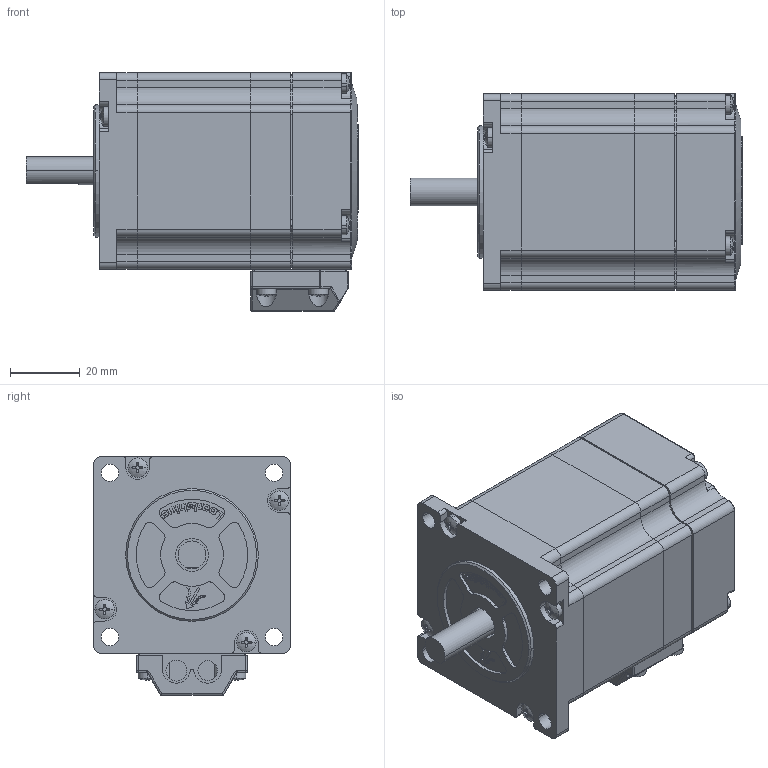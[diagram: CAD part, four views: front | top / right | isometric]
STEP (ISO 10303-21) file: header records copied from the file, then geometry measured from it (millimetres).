
FILE_DESCRIPTION (( 'STEP AP203' ), '1' );
FILE_NAME ('57CME13.STEP', '2017-10-25T03:15:10', ( '' ), ( '' ), 'SwSTEP 2.0', 'SolidWorks 2016', '' );
FILE_SCHEMA (( 'CONFIG_CONTROL_DESIGN' ));
Products named in the file (1): 57CME13
Bounding box: 95.3 x 56.4 x 68.5 mm (x, y, z)
Volume: 106637.6 mm3; surface area: 81160 mm2
Topology: 32 solids, 32 shells, 3189 faces, 8383 edges, 5415 vertices
Faces by surface type: plane 1456, cylinder 994, bspline 406, cone 257, sphere 46, torus 30
Entity records: 109374 total; most frequent: CARTESIAN_POINT 31538, ORIENTED_EDGE 16750, DIRECTION 15372, EDGE_CURVE 8375, VERTEX_POINT 5415, AXIS2_PLACEMENT_3D 5221, LINE 4930, VECTOR 4930
